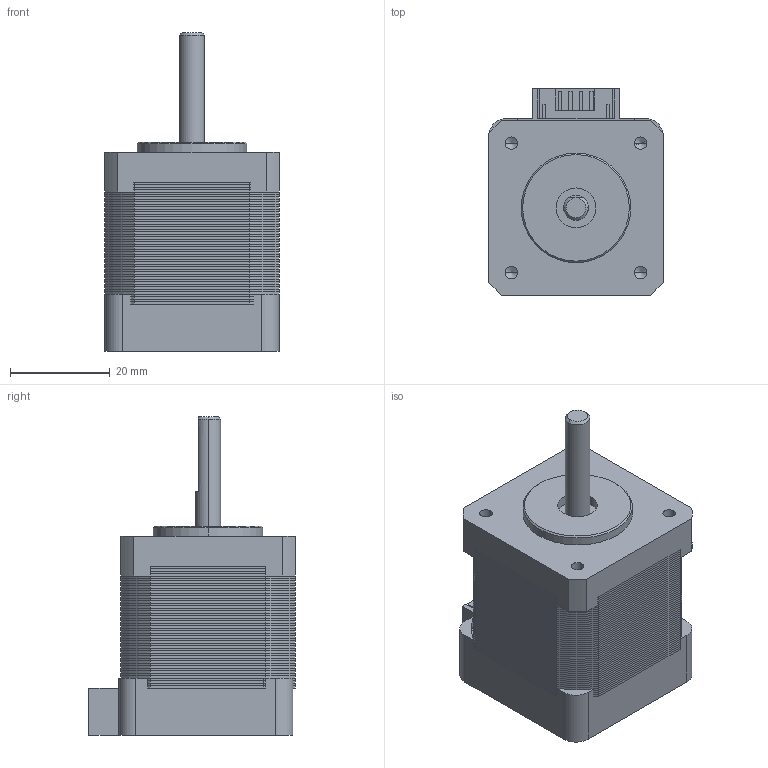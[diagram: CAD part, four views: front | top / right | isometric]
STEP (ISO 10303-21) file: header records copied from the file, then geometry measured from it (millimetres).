
FILE_DESCRIPTION (( 'STEP AP203' ), '1' );
FILE_NAME ('SM1403.STEP', '2020-05-23T06:25:17', ( 'Windows' ), ( 'Microsoft' ), 'SwSTEP 2.0', 'SolidWorks 2016', '' );
FILE_SCHEMA (( 'CONFIG_CONTROL_DESIGN' ));
Length unit declared in the file: millimetre
Products named in the file (1): SM1403
Bounding box: 35 x 41.49 x 64 mm (x, y, z)
Volume: 49058 mm3; surface area: 126152.3 mm2
Topology: 51 solids, 51 shells, 722 faces, 1782 edges, 1179 vertices
Faces by surface type: plane 445, cylinder 262, cone 15
Entity records: 21336 total; most frequent: DIRECTION 3751, CARTESIAN_POINT 3688, ORIENTED_EDGE 3548, EDGE_CURVE 1774, AXIS2_PLACEMENT_3D 1256, LINE 1239, VECTOR 1239, VERTEX_POINT 1179
